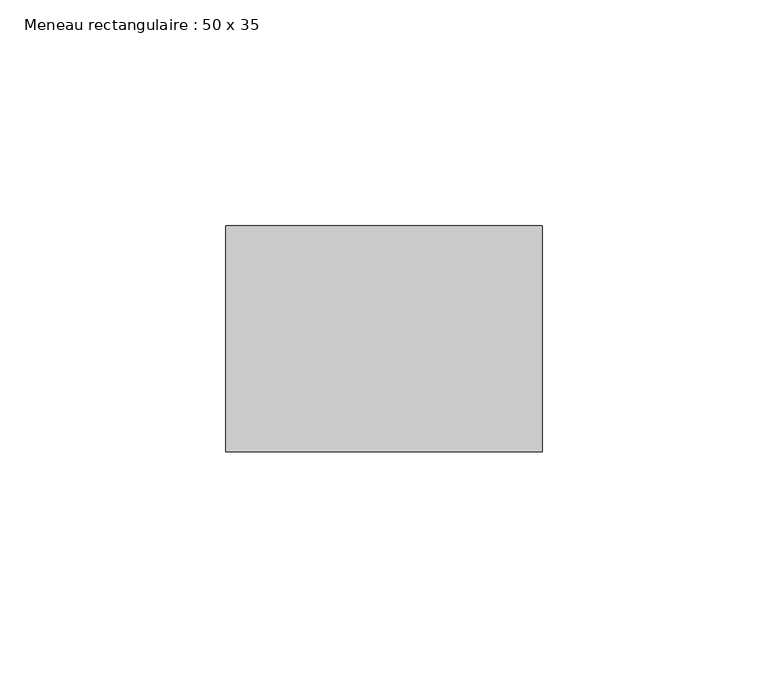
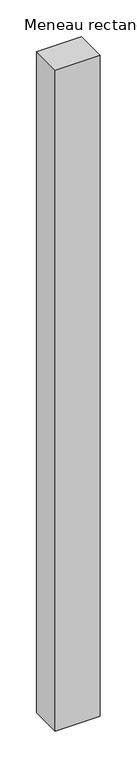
"""IFC4 building model written with IfcOpenShell, lengths in millimetres: member geometry, Meneau rectangulaire : 50 x 35."""

from ifc_helpers import new_model, si_unit, frame, origin, place, context, project, spatial, polyline, outline, extrude, source, transform, mapped, element, save


def meneau_rectangulaire_50_x_35_40d03325(model_context):
    return source(origin(), model_context, "Body", "SweptSolid", [
        extrude(outline(polyline([(35.0, 0.0), (35.0, -50.0), (-35.0, -50.0), (-35.0, 0.0), (35.0, 0.0)])), frame((0.0, 0.0, -1092.1902979), z_axis=(0.0, 0.0, 1.0), x_axis=(1.0, 0.0, 0.0)), (0.0, 0.0, 1.0), 1092.1902979),
    ])


if __name__ == "__main__":
    model = new_model("IFC4")
    model_context = context("Model", 3, world=origin())
    ifc_project = project(units=[si_unit("LENGTHUNIT", "METRE", prefix="MILLI")], contexts=[model_context])
    site = spatial("IfcSite", under=ifc_project)
    building = spatial("IfcBuilding", under=site)
    placement = place(None, origin())
    meneau_rectangulaire_50_x_35_shape = meneau_rectangulaire_50_x_35_40d03325(model_context)
    element("IfcMember", 1, ObjectType="Meneau rectangulaire : 50 x 35", at=placement, inside=building, context=model_context, shape_type="MappedRepresentation", body=[
        mapped(meneau_rectangulaire_50_x_35_shape, transform((0.0, 0.0, 0.0), x_axis=(1.0, 0.0, 0.0), y_axis=(0.0, 1.0, 0.0), z_axis=(0.0, 0.0, 1.0))),
    ])
    save(model, "model.ifc")
